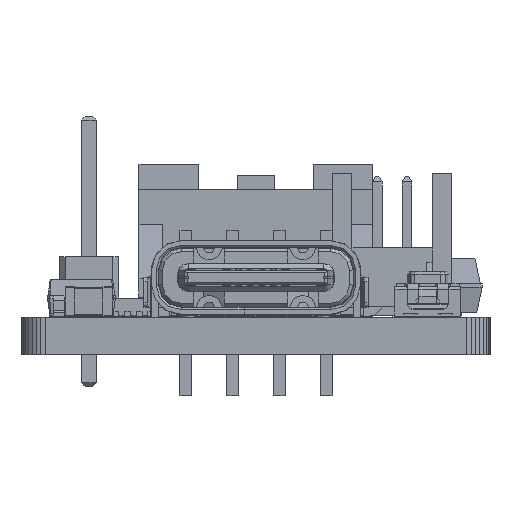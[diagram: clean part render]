
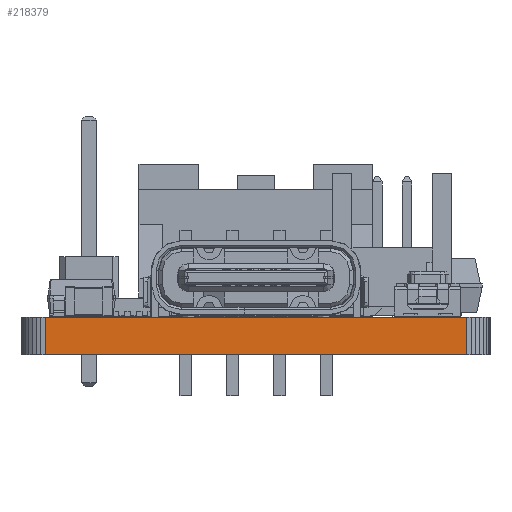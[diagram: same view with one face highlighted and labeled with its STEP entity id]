
A CAD part, left-side view. The second image highlights one B-rep face of the part: STEP entity #218379.
In plain terms, the highlighted planar face has unit normal (-1, 0, 0).
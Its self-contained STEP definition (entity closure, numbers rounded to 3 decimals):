
#205118 = PLANE('',#205119);
#205119 = AXIS2_PLACEMENT_3D('',#205120,#205121,#205122);
#205120 = CARTESIAN_POINT('',(43.5,-40.,1.6));
#205121 = DIRECTION('',(-0.,-0.,-1.));
#205122 = DIRECTION('',(-1.,0.,0.));
#205172 = PLANE('',#205173);
#205173 = AXIS2_PLACEMENT_3D('',#205174,#205175,#205176);
#205174 = CARTESIAN_POINT('',(43.5,-40.,0.));
#205175 = DIRECTION('',(-0.,-0.,-1.));
#205176 = DIRECTION('',(-1.,0.,0.));
#205953 = VERTEX_POINT('',#205954);
#205954 = CARTESIAN_POINT('',(20.,-49.,0.));
#205968 = PLANE('',#205969);
#205969 = AXIS2_PLACEMENT_3D('',#205970,#205971,#205972);
#205970 = CARTESIAN_POINT('',(20.019,-49.195,0.));
#205971 = DIRECTION('',(-0.995,-0.098,0.));
#205972 = DIRECTION('',(-0.098,0.995,0.));
#205980 = EDGE_CURVE('',#205953,#205981,#205983,.T.);
#205981 = VERTEX_POINT('',#205982);
#205982 = CARTESIAN_POINT('',(20.,-31.,0.));
#205983 = SURFACE_CURVE('',#205984,(#205988,#205995),.PCURVE_S1.);
#205984 = LINE('',#205985,#205986);
#205985 = CARTESIAN_POINT('',(20.,-49.,0.));
#205986 = VECTOR('',#205987,1.);
#205987 = DIRECTION('',(0.,1.,0.));
#205988 = PCURVE('',#205172,#205989);
#205989 = DEFINITIONAL_REPRESENTATION('',(#205990),#205994);
#205990 = LINE('',#205991,#205992);
#205991 = CARTESIAN_POINT('',(23.5,-9.));
#205992 = VECTOR('',#205993,1.);
#205993 = DIRECTION('',(0.,1.));
#205994 = ( GEOMETRIC_REPRESENTATION_CONTEXT(2) 
PARAMETRIC_REPRESENTATION_CONTEXT() REPRESENTATION_CONTEXT('2D SPACE',''
  ) );
#205995 = PCURVE('',#205996,#206001);
#205996 = PLANE('',#205997);
#205997 = AXIS2_PLACEMENT_3D('',#205998,#205999,#206000);
#205998 = CARTESIAN_POINT('',(20.,-49.,0.));
#205999 = DIRECTION('',(-1.,0.,0.));
#206000 = DIRECTION('',(0.,1.,0.));
#206001 = DEFINITIONAL_REPRESENTATION('',(#206002),#206006);
#206002 = LINE('',#206003,#206004);
#206003 = CARTESIAN_POINT('',(0.,0.));
#206004 = VECTOR('',#206005,1.);
#206005 = DIRECTION('',(1.,0.));
#206006 = ( GEOMETRIC_REPRESENTATION_CONTEXT(2) 
PARAMETRIC_REPRESENTATION_CONTEXT() REPRESENTATION_CONTEXT('2D SPACE',''
  ) );
#206024 = PLANE('',#206025);
#206025 = AXIS2_PLACEMENT_3D('',#206026,#206027,#206028);
#206026 = CARTESIAN_POINT('',(20.,-31.,0.));
#206027 = DIRECTION('',(-0.995,0.098,0.));
#206028 = DIRECTION('',(0.098,0.995,0.));
#212829 = VERTEX_POINT('',#212830);
#212830 = CARTESIAN_POINT('',(20.,-49.,1.6));
#212851 = EDGE_CURVE('',#212829,#212852,#212854,.T.);
#212852 = VERTEX_POINT('',#212853);
#212853 = CARTESIAN_POINT('',(20.,-31.,1.6));
#212854 = SURFACE_CURVE('',#212855,(#212859,#212866),.PCURVE_S1.);
#212855 = LINE('',#212856,#212857);
#212856 = CARTESIAN_POINT('',(20.,-49.,1.6));
#212857 = VECTOR('',#212858,1.);
#212858 = DIRECTION('',(0.,1.,0.));
#212859 = PCURVE('',#205118,#212860);
#212860 = DEFINITIONAL_REPRESENTATION('',(#212861),#212865);
#212861 = LINE('',#212862,#212863);
#212862 = CARTESIAN_POINT('',(23.5,-9.));
#212863 = VECTOR('',#212864,1.);
#212864 = DIRECTION('',(0.,1.));
#212865 = ( GEOMETRIC_REPRESENTATION_CONTEXT(2) 
PARAMETRIC_REPRESENTATION_CONTEXT() REPRESENTATION_CONTEXT('2D SPACE',''
  ) );
#212866 = PCURVE('',#205996,#212867);
#212867 = DEFINITIONAL_REPRESENTATION('',(#212868),#212872);
#212868 = LINE('',#212869,#212870);
#212869 = CARTESIAN_POINT('',(0.,-1.6));
#212870 = VECTOR('',#212871,1.);
#212871 = DIRECTION('',(1.,0.));
#212872 = ( GEOMETRIC_REPRESENTATION_CONTEXT(2) 
PARAMETRIC_REPRESENTATION_CONTEXT() REPRESENTATION_CONTEXT('2D SPACE',''
  ) );
#218329 = EDGE_CURVE('',#205981,#212852,#218330,.T.);
#218330 = SURFACE_CURVE('',#218331,(#218335,#218342),.PCURVE_S1.);
#218331 = LINE('',#218332,#218333);
#218332 = CARTESIAN_POINT('',(20.,-31.,0.));
#218333 = VECTOR('',#218334,1.);
#218334 = DIRECTION('',(0.,0.,1.));
#218335 = PCURVE('',#206024,#218336);
#218336 = DEFINITIONAL_REPRESENTATION('',(#218337),#218341);
#218337 = LINE('',#218338,#218339);
#218338 = CARTESIAN_POINT('',(0.,0.));
#218339 = VECTOR('',#218340,1.);
#218340 = DIRECTION('',(0.,-1.));
#218341 = ( GEOMETRIC_REPRESENTATION_CONTEXT(2) 
PARAMETRIC_REPRESENTATION_CONTEXT() REPRESENTATION_CONTEXT('2D SPACE',''
  ) );
#218342 = PCURVE('',#205996,#218343);
#218343 = DEFINITIONAL_REPRESENTATION('',(#218344),#218348);
#218344 = LINE('',#218345,#218346);
#218345 = CARTESIAN_POINT('',(18.,0.));
#218346 = VECTOR('',#218347,1.);
#218347 = DIRECTION('',(0.,-1.));
#218348 = ( GEOMETRIC_REPRESENTATION_CONTEXT(2) 
PARAMETRIC_REPRESENTATION_CONTEXT() REPRESENTATION_CONTEXT('2D SPACE',''
  ) );
#218379 = ADVANCED_FACE('',(#218380),#205996,.T.);
#218380 = FACE_BOUND('',#218381,.T.);
#218381 = EDGE_LOOP('',(#218382,#218403,#218404,#218405));
#218382 = ORIENTED_EDGE('',*,*,#218383,.T.);
#218383 = EDGE_CURVE('',#205953,#212829,#218384,.T.);
#218384 = SURFACE_CURVE('',#218385,(#218389,#218396),.PCURVE_S1.);
#218385 = LINE('',#218386,#218387);
#218386 = CARTESIAN_POINT('',(20.,-49.,0.));
#218387 = VECTOR('',#218388,1.);
#218388 = DIRECTION('',(0.,0.,1.));
#218389 = PCURVE('',#205996,#218390);
#218390 = DEFINITIONAL_REPRESENTATION('',(#218391),#218395);
#218391 = LINE('',#218392,#218393);
#218392 = CARTESIAN_POINT('',(0.,0.));
#218393 = VECTOR('',#218394,1.);
#218394 = DIRECTION('',(0.,-1.));
#218395 = ( GEOMETRIC_REPRESENTATION_CONTEXT(2) 
PARAMETRIC_REPRESENTATION_CONTEXT() REPRESENTATION_CONTEXT('2D SPACE',''
  ) );
#218396 = PCURVE('',#205968,#218397);
#218397 = DEFINITIONAL_REPRESENTATION('',(#218398),#218402);
#218398 = LINE('',#218399,#218400);
#218399 = CARTESIAN_POINT('',(0.196,0.));
#218400 = VECTOR('',#218401,1.);
#218401 = DIRECTION('',(0.,-1.));
#218402 = ( GEOMETRIC_REPRESENTATION_CONTEXT(2) 
PARAMETRIC_REPRESENTATION_CONTEXT() REPRESENTATION_CONTEXT('2D SPACE',''
  ) );
#218403 = ORIENTED_EDGE('',*,*,#212851,.T.);
#218404 = ORIENTED_EDGE('',*,*,#218329,.F.);
#218405 = ORIENTED_EDGE('',*,*,#205980,.F.);
